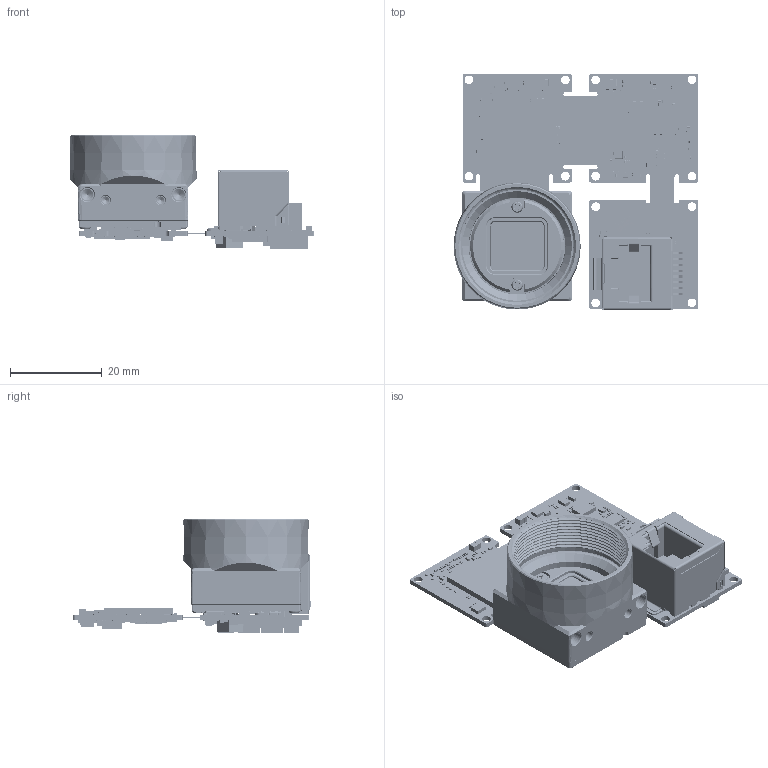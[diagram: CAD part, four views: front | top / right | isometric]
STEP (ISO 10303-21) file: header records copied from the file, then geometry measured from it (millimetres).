
FILE_DESCRIPTION (( 'STEP AP203' ), '1' );
FILE_NAME ('223-264-B_PHX24 C-MOUNT_OPEN.STEP', '2018-10-22T21:43:26', ( '' ), ( '' ), 'SwSTEP 2.0', 'SolidWorks 2017', '' );
FILE_SCHEMA (( 'CONFIG_CONTROL_DESIGN' ));
Products named in the file (1): 223-264-B_PHX24 C-MOUNT_OPEN
Bounding box: 53.41 x 51.7 x 24.85 mm (x, y, z)
Surface area: 19471 mm2 (no closed solid volume)
Topology: 0 solids, 653 shells, 22249 faces, 52188 edges, 27618 vertices
Faces by surface type: plane 9508, cylinder 8229, bspline 4345, cone 119, torus 46, sphere 2
Full cylindrical faces by diameter (mm): 0.099 x1, 0.177 x1, 0.206 x2, 1 x2, 1.05 x1, 1.1 x2, 1.2 x1, 1.35 x6, 1.5 x2, 1.6 x4, 1.7 x10, 1.8 x4, 1.9 x16, 2 x4, 2.5 x4, 3 x4, 25.5 x1
Entity records: 638876 total; most frequent: CARTESIAN_POINT 169019, DIRECTION 99265, ORIENTED_EDGE 95492, EDGE_CURVE 47748, AXIS2_PLACEMENT_3D 34332, LINE 30601, VECTOR 30601, VERTEX_POINT 27571
